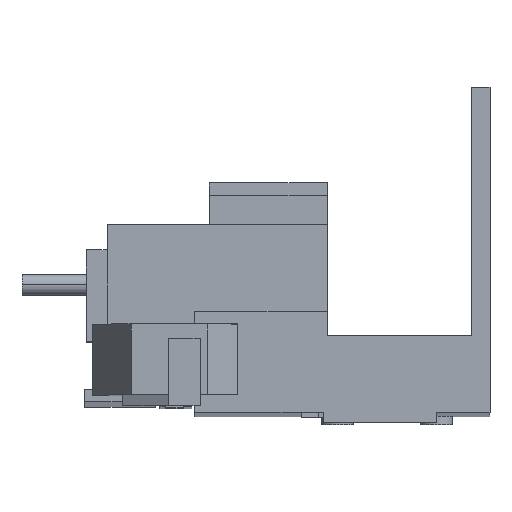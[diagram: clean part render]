
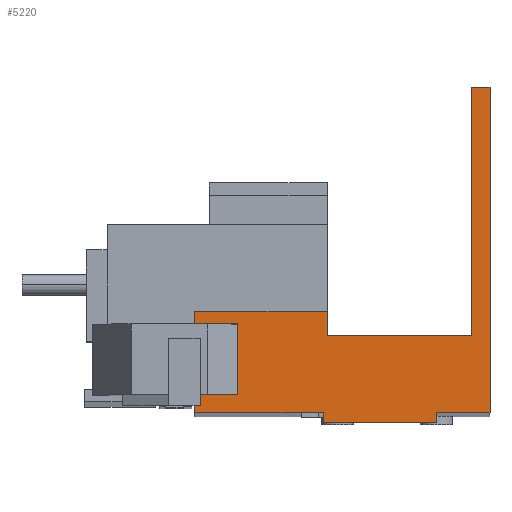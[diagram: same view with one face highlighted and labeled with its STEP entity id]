
A CAD part, front view. The second image highlights one B-rep face of the part: STEP entity #5220.
In plain terms, the highlighted planar face has unit normal (0, -1, 0.002).
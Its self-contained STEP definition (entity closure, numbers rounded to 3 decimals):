
#449 = EDGE_LOOP ( 'NONE', ( #488, #490, #492, #624, #628, #626, #608, #612, #610, #618, #616, #592 ) ) ;
#488 = ORIENTED_EDGE ( 'NONE', *, *, #1184, .T. ) ;
#490 = ORIENTED_EDGE ( 'NONE', *, *, #1231, .T. ) ;
#492 = ORIENTED_EDGE ( 'NONE', *, *, #1241, .T. ) ;
#592 = ORIENTED_EDGE ( 'NONE', *, *, #1187, .T. ) ;
#608 = ORIENTED_EDGE ( 'NONE', *, *, #1182, .F. ) ;
#610 = ORIENTED_EDGE ( 'NONE', *, *, #1590, .T. ) ;
#612 = ORIENTED_EDGE ( 'NONE', *, *, #1181, .T. ) ;
#616 = ORIENTED_EDGE ( 'NONE', *, *, #1284, .T. ) ;
#618 = ORIENTED_EDGE ( 'NONE', *, *, #1243, .T. ) ;
#624 = ORIENTED_EDGE ( 'NONE', *, *, #1601, .T. ) ;
#626 = ORIENTED_EDGE ( 'NONE', *, *, #1183, .F. ) ;
#628 = ORIENTED_EDGE ( 'NONE', *, *, #1627, .T. ) ;
#706 = VERTEX_POINT ( 'NONE', #4453 ) ;
#709 = VERTEX_POINT ( 'NONE', #4456 ) ;
#742 = VERTEX_POINT ( 'NONE', #4489 ) ;
#750 = VERTEX_POINT ( 'NONE', #4497 ) ;
#753 = VERTEX_POINT ( 'NONE', #4500 ) ;
#767 = VERTEX_POINT ( 'NONE', #4514 ) ;
#799 = VERTEX_POINT ( 'NONE', #4532 ) ;
#800 = VERTEX_POINT ( 'NONE', #4533 ) ;
#803 = VERTEX_POINT ( 'NONE', #4536 ) ;
#837 = VERTEX_POINT ( 'NONE', #4557 ) ;
#838 = VERTEX_POINT ( 'NONE', #4558 ) ;
#842 = VERTEX_POINT ( 'NONE', #4562 ) ;
#1181 = EDGE_CURVE ( 'NONE', #837, #803, #2441, .T. ) ;
#1182 = EDGE_CURVE ( 'NONE', #837, #742, #2437, .T. ) ;
#1183 = EDGE_CURVE ( 'NONE', #742, #753, #2473, .T. ) ;
#1184 = EDGE_CURVE ( 'NONE', #842, #706, #2469, .T. ) ;
#1187 = EDGE_CURVE ( 'NONE', #800, #842, #2884, .T. ) ;
#1231 = EDGE_CURVE ( 'NONE', #706, #750, #2828, .T. ) ;
#1241 = EDGE_CURVE ( 'NONE', #750, #799, #2806, .T. ) ;
#1243 = EDGE_CURVE ( 'NONE', #767, #838, #2874, .T. ) ;
#1284 = EDGE_CURVE ( 'NONE', #838, #800, #2509, .T. ) ;
#1590 = EDGE_CURVE ( 'NONE', #803, #767, #3033, .T. ) ;
#1601 = EDGE_CURVE ( 'NONE', #799, #709, #2999, .T. ) ;
#1627 = EDGE_CURVE ( 'NONE', #709, #753, #2206, .T. ) ;
#1961 = AXIS2_PLACEMENT_3D ( 'NONE', #3992, #3997, #3998 ) ;
#2203 = VECTOR ( 'NONE', #3822, 1000. ) ;
#2206 = LINE ( 'NONE', #3821, #2203 ) ;
#2384 = FACE_OUTER_BOUND ( 'NONE', #449, .T. ) ;
#2437 = LINE ( 'NONE', #4730, #2467 ) ;
#2441 = LINE ( 'NONE', #4728, #2471 ) ;
#2459 = VECTOR ( 'NONE', #4739, 1000. ) ;
#2463 = VECTOR ( 'NONE', #4737, 1000. ) ;
#2467 = VECTOR ( 'NONE', #4735, 1000. ) ;
#2469 = LINE ( 'NONE', #4734, #2459 ) ;
#2471 = VECTOR ( 'NONE', #4733, 1000. ) ;
#2473 = LINE ( 'NONE', #4732, #2463 ) ;
#2509 = LINE ( 'NONE', #5006, #2670 ) ;
#2511 = VECTOR ( 'NONE', #4869, 1000. ) ;
#2670 = VECTOR ( 'NONE', #5011, 1000. ) ;
#2806 = LINE ( 'NONE', #4888, #2902 ) ;
#2828 = LINE ( 'NONE', #4868, #2511 ) ;
#2848 = VECTOR ( 'NONE', #4744, 1000. ) ;
#2854 = VECTOR ( 'NONE', #4893, 1000. ) ;
#2874 = LINE ( 'NONE', #4892, #2854 ) ;
#2884 = LINE ( 'NONE', #4743, #2848 ) ;
#2902 = VECTOR ( 'NONE', #4889, 1000. ) ;
#2993 = VECTOR ( 'NONE', #3768, 1000. ) ;
#2999 = LINE ( 'NONE', #3767, #2993 ) ;
#3029 = VECTOR ( 'NONE', #3735, 1000. ) ;
#3033 = LINE ( 'NONE', #3734, #3029 ) ;
#3734 = CARTESIAN_POINT ( 'NONE',  ( 0., -33.075, -35.931 ) ) ;
#3735 = DIRECTION ( 'NONE',  ( 1., 0., 0. ) ) ;
#3767 = CARTESIAN_POINT ( 'NONE',  ( -41.6, -33.075, -35.931 ) ) ;
#3768 = DIRECTION ( 'NONE',  ( 0., -0.002, -1. ) ) ;
#3821 = CARTESIAN_POINT ( 'NONE',  ( 0., -33.075, -35.931 ) ) ;
#3822 = DIRECTION ( 'NONE',  ( 1., 0., 0. ) ) ;
#3992 = CARTESIAN_POINT ( 'NONE',  ( 0., -33.075, -35.931 ) ) ;
#3994 = PLANE ( 'NONE',  #1961 ) ;
#3997 = DIRECTION ( 'NONE',  ( 0., 1., -0.002 ) ) ;
#3998 = DIRECTION ( 'NONE',  ( -1., 0., 0. ) ) ;
#4453 = CARTESIAN_POINT ( 'NONE',  ( -22.92, -33.053, -25.181 ) ) ;
#4456 = CARTESIAN_POINT ( 'NONE',  ( -41.6, -33.075, -35.931 ) ) ;
#4489 = CARTESIAN_POINT ( 'NONE',  ( -23.5, -33.078, -37.431 ) ) ;
#4497 = CARTESIAN_POINT ( 'NONE',  ( -22.92, -33.046, -21.831 ) ) ;
#4500 = CARTESIAN_POINT ( 'NONE',  ( -23.5, -33.075, -35.931 ) ) ;
#4514 = CARTESIAN_POINT ( 'NONE',  ( 0., -33.075, -35.931 ) ) ;
#4532 = CARTESIAN_POINT ( 'NONE',  ( -41.6, -33.046, -21.831 ) ) ;
#4533 = CARTESIAN_POINT ( 'NONE',  ( -2.55, -32.98, 9.819 ) ) ;
#4536 = CARTESIAN_POINT ( 'NONE',  ( -7.5, -33.075, -35.931 ) ) ;
#4557 = CARTESIAN_POINT ( 'NONE',  ( -7.5, -33.078, -37.431 ) ) ;
#4558 = CARTESIAN_POINT ( 'NONE',  ( 0., -32.98, 9.819 ) ) ;
#4562 = CARTESIAN_POINT ( 'NONE',  ( -2.55, -33.053, -25.181 ) ) ;
#4728 = CARTESIAN_POINT ( 'NONE',  ( -7.5, -33.078, -37.431 ) ) ;
#4730 = CARTESIAN_POINT ( 'NONE',  ( -7.5, -33.078, -37.431 ) ) ;
#4732 = CARTESIAN_POINT ( 'NONE',  ( -23.5, -33.078, -37.431 ) ) ;
#4733 = DIRECTION ( 'NONE',  ( 0., 0.002, 1. ) ) ;
#4734 = CARTESIAN_POINT ( 'NONE',  ( -1.75, -33.053, -25.181 ) ) ;
#4735 = DIRECTION ( 'NONE',  ( -1., 0., 0. ) ) ;
#4737 = DIRECTION ( 'NONE',  ( 0., 0.002, 1. ) ) ;
#4739 = DIRECTION ( 'NONE',  ( -1., 0., 0. ) ) ;
#4743 = CARTESIAN_POINT ( 'NONE',  ( -2.55, -33.072, -34.474 ) ) ;
#4744 = DIRECTION ( 'NONE',  ( 0., -0.002, -1. ) ) ;
#4868 = CARTESIAN_POINT ( 'NONE',  ( -22.92, -33.046, -21.831 ) ) ;
#4869 = DIRECTION ( 'NONE',  ( 0., 0.002, 1. ) ) ;
#4888 = CARTESIAN_POINT ( 'NONE',  ( -41.6, -33.046, -21.831 ) ) ;
#4889 = DIRECTION ( 'NONE',  ( -1., 0., 0. ) ) ;
#4892 = CARTESIAN_POINT ( 'NONE',  ( 0., -32.98, 9.819 ) ) ;
#4893 = DIRECTION ( 'NONE',  ( 0., 0.002, 1. ) ) ;
#5006 = CARTESIAN_POINT ( 'NONE',  ( -2.55, -32.98, 9.819 ) ) ;
#5011 = DIRECTION ( 'NONE',  ( -1., 0., 0. ) ) ;
#5220 = ADVANCED_FACE ( 'NONE', ( #2384 ), #3994, .F. ) ;
